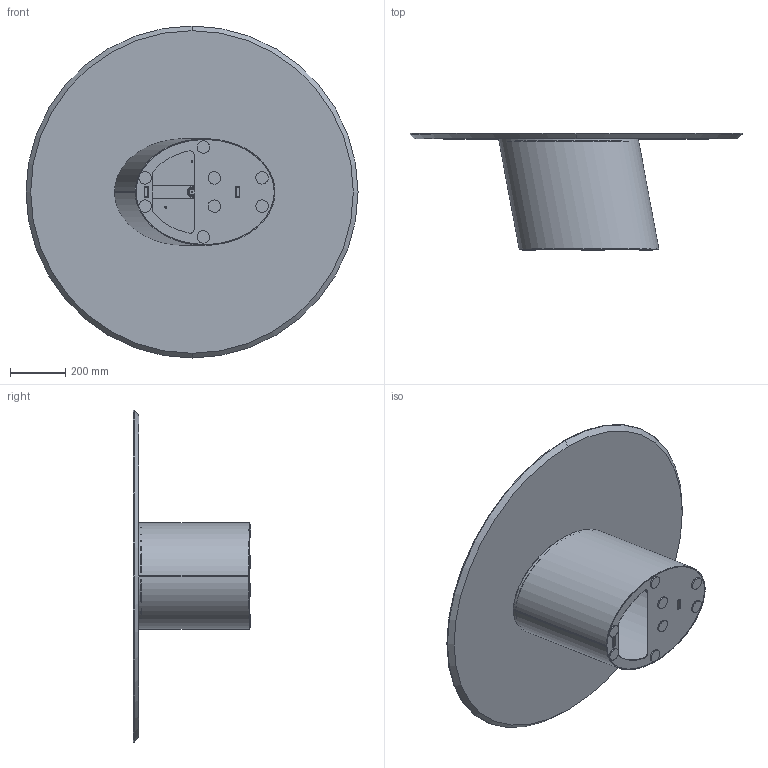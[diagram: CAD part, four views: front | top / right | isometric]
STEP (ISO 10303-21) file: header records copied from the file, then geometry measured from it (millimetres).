
FILE_DESCRIPTION (( 'STEP AP203' ), '1' );
FILE_NAME ('D214W.STEP', '2024-08-07T11:24:50', ( '' ), ( '' ), 'SwSTEP 2.0', 'SolidWorks 2022', '' );
FILE_SCHEMA (( 'CONFIG_CONTROL_DESIGN' ));
Length unit declared in the file: millimetre
Products named in the file (4): Parte2^Dxxxx-00-DORADO LOW; W1XCMXX-00-Piani Rotondi legno_D.1200; D214W; D2B000001-00-BASAMENTO DORADO LOW H420_Default<A macchina>
Assembly tree (10 placements, depth 2):
  D214W
    D2B000001-00-BASAMENTO DORADO LOW H420_Default<A macchina>
    Parte2^Dxxxx-00-DORADO LOW  x8
    W1XCMXX-00-Piani Rotondi legno_D.1200
Bounding box: 1200 x 425 x 1200 mm (x, y, z)
Volume: 24333752.2 mm3; surface area: 3981743.2 mm2
Topology: 16 solids, 16 shells, 185 faces, 447 edges, 290 vertices
Faces by surface type: plane 82, cylinder 73, cone 16, bspline 14
Entity records: 8346 total; most frequent: CARTESIAN_POINT 3922, ORIENTED_EDGE 794, DIRECTION 781, EDGE_CURVE 397, AXIS2_PLACEMENT_3D 280, VERTEX_POINT 262, VECTOR 221, LINE 221
